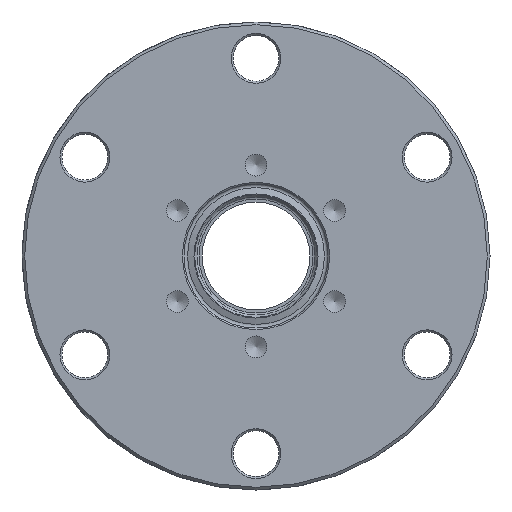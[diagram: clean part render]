
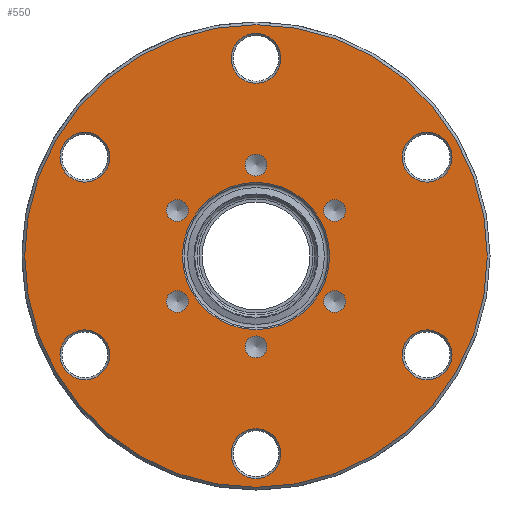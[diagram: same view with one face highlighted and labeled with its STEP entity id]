
A CAD part, left-side view. The second image highlights one B-rep face of the part: STEP entity #550.
In plain terms, the highlighted planar face has unit normal (-1, 0, 0).
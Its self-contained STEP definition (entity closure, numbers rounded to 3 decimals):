
#387=CARTESIAN_POINT('',(-13.,10.925,0.));
#388=VERTEX_POINT('',#387);
#389=CARTESIAN_POINT('',(-13.,0.,0.0));
#390=DIRECTION('',(-1.0,0.0,0.0));
#391=DIRECTION('',(0.0,-1.0,0.0));
#392=AXIS2_PLACEMENT_3D('',#389,#390,#391);
#393=CIRCLE('',#392,10.925);
#394=EDGE_CURVE('',#388,#388,#393,.T.);
#399=CARTESIAN_POINT('',(-13.,17.375,0.0));
#400=DIRECTION('',(-1.0,0.0,0.0));
#401=DIRECTION('',(0.0,0.0,1.0));
#402=AXIS2_PLACEMENT_3D('',#399,#400,#401);
#403=PLANE('',#402);
#404=CARTESIAN_POINT('',(-13.,34.35,0.));
#405=VERTEX_POINT('',#404);
#406=CARTESIAN_POINT('',(-13.,0.,0.0));
#407=DIRECTION('',(1.0,0.0,0.0));
#408=DIRECTION('',(0.0,-1.0,0.0));
#409=AXIS2_PLACEMENT_3D('',#406,#407,#408);
#410=CIRCLE('',#409,34.35);
#411=EDGE_CURVE('',#405,#405,#410,.T.);
#412=ORIENTED_EDGE('',*,*,#411,.F.);
#413=EDGE_LOOP('',(#412));
#414=FACE_OUTER_BOUND('',#413,.T.);
#415=CARTESIAN_POINT('',(-13.,13.095,-5.94));
#416=VERTEX_POINT('',#415);
#417=CARTESIAN_POINT('',(-13.,11.691,-6.75));
#418=DIRECTION('',(1.,0.0,0.0));
#419=DIRECTION('',(0.0,0.866,0.5));
#420=AXIS2_PLACEMENT_3D('',#417,#418,#419);
#421=CIRCLE('',#420,1.621);
#422=EDGE_CURVE('',#416,#416,#421,.T.);
#423=ORIENTED_EDGE('',*,*,#422,.T.);
#424=EDGE_LOOP('',(#423));
#425=FACE_BOUND('',#424,.T.);
#426=CARTESIAN_POINT('',(-13.,1.404,-14.31));
#427=VERTEX_POINT('',#426);
#428=CARTESIAN_POINT('',(-13.0,0.,-13.5));
#429=DIRECTION('',(1.0,0.0,0.0));
#430=DIRECTION('',(0.0,0.866,-0.5));
#431=AXIS2_PLACEMENT_3D('',#428,#429,#430);
#432=CIRCLE('',#431,1.621);
#433=EDGE_CURVE('',#427,#427,#432,.T.);
#434=ORIENTED_EDGE('',*,*,#433,.T.);
#435=EDGE_LOOP('',(#434));
#436=FACE_BOUND('',#435,.T.);
#437=CARTESIAN_POINT('',(-13.,-11.691,-8.371));
#438=VERTEX_POINT('',#437);
#439=CARTESIAN_POINT('',(-13.,-11.691,-6.75));
#440=DIRECTION('',(1.0,0.0,0.0));
#441=DIRECTION('',(0.0,0.0,-1.0));
#442=AXIS2_PLACEMENT_3D('',#439,#440,#441);
#443=CIRCLE('',#442,1.621);
#444=EDGE_CURVE('',#438,#438,#443,.T.);
#445=ORIENTED_EDGE('',*,*,#444,.T.);
#446=EDGE_LOOP('',(#445));
#447=FACE_BOUND('',#446,.T.);
#448=CARTESIAN_POINT('',(-13.,-13.095,5.94));
#449=VERTEX_POINT('',#448);
#450=CARTESIAN_POINT('',(-13.0,-11.691,6.75));
#451=DIRECTION('',(1.0,0.0,0.0));
#452=DIRECTION('',(0.0,-0.866,-0.5));
#453=AXIS2_PLACEMENT_3D('',#450,#451,#452);
#454=CIRCLE('',#453,1.621);
#455=EDGE_CURVE('',#449,#449,#454,.T.);
#456=ORIENTED_EDGE('',*,*,#455,.T.);
#457=EDGE_LOOP('',(#456));
#458=FACE_BOUND('',#457,.T.);
#459=CARTESIAN_POINT('',(-13.,-1.404,14.31));
#460=VERTEX_POINT('',#459);
#461=CARTESIAN_POINT('',(-13.,0.,13.5));
#462=DIRECTION('',(1.,0.0,0.0));
#463=DIRECTION('',(0.0,-0.866,0.5));
#464=AXIS2_PLACEMENT_3D('',#461,#462,#463);
#465=CIRCLE('',#464,1.621);
#466=EDGE_CURVE('',#460,#460,#465,.T.);
#467=ORIENTED_EDGE('',*,*,#466,.T.);
#468=EDGE_LOOP('',(#467));
#469=FACE_BOUND('',#468,.T.);
#470=CARTESIAN_POINT('',(-13.,11.691,8.371));
#471=VERTEX_POINT('',#470);
#472=CARTESIAN_POINT('',(-13.,11.691,6.75));
#473=DIRECTION('',(1.0,0.0,0.0));
#474=DIRECTION('',(0.0,0.0,1.0));
#475=AXIS2_PLACEMENT_3D('',#472,#473,#474);
#476=CIRCLE('',#475,1.621);
#477=EDGE_CURVE('',#471,#471,#476,.T.);
#478=ORIENTED_EDGE('',*,*,#477,.T.);
#479=EDGE_LOOP('',(#478));
#480=FACE_BOUND('',#479,.T.);
#481=CARTESIAN_POINT('',(-13.,-22.214,-16.525));
#482=VERTEX_POINT('',#481);
#483=CARTESIAN_POINT('',(-13.,-25.418,-14.675));
#484=DIRECTION('',(-1.0,0.,0.));
#485=DIRECTION('',(0.,-0.866,0.5));
#486=AXIS2_PLACEMENT_3D('',#483,#484,#485);
#487=CIRCLE('',#486,3.7);
#488=EDGE_CURVE('',#482,#482,#487,.T.);
#489=ORIENTED_EDGE('',*,*,#488,.F.);
#490=EDGE_LOOP('',(#489));
#491=FACE_BOUND('',#490,.T.);
#492=CARTESIAN_POINT('',(-13.,-3.204,27.5));
#493=VERTEX_POINT('',#492);
#494=CARTESIAN_POINT('',(-13.,0.,29.35));
#495=DIRECTION('',(-1.0,0.,0.));
#496=DIRECTION('',(0.,0.866,0.5));
#497=AXIS2_PLACEMENT_3D('',#494,#495,#496);
#498=CIRCLE('',#497,3.7);
#499=EDGE_CURVE('',#493,#493,#498,.T.);
#500=ORIENTED_EDGE('',*,*,#499,.F.);
#501=EDGE_LOOP('',(#500));
#502=FACE_BOUND('',#501,.T.);
#503=CARTESIAN_POINT('',(-13.,25.418,-10.975));
#504=VERTEX_POINT('',#503);
#505=CARTESIAN_POINT('',(-13.,25.418,-14.675));
#506=DIRECTION('',(-1.0,0.0,0.0));
#507=DIRECTION('',(0.0,0.0,-1.0));
#508=AXIS2_PLACEMENT_3D('',#505,#506,#507);
#509=CIRCLE('',#508,3.7);
#510=EDGE_CURVE('',#504,#504,#509,.T.);
#511=ORIENTED_EDGE('',*,*,#510,.F.);
#512=EDGE_LOOP('',(#511));
#513=FACE_BOUND('',#512,.T.);
#514=CARTESIAN_POINT('',(-13.,22.214,16.525));
#515=VERTEX_POINT('',#514);
#516=CARTESIAN_POINT('',(-13.,25.418,14.675));
#517=DIRECTION('',(-1.,0.,0.));
#518=DIRECTION('',(0.,0.866,-0.5));
#519=AXIS2_PLACEMENT_3D('',#516,#517,#518);
#520=CIRCLE('',#519,3.7);
#521=EDGE_CURVE('',#515,#515,#520,.T.);
#522=ORIENTED_EDGE('',*,*,#521,.F.);
#523=EDGE_LOOP('',(#522));
#524=FACE_BOUND('',#523,.T.);
#525=CARTESIAN_POINT('',(-13.,-25.418,10.975));
#526=VERTEX_POINT('',#525);
#527=CARTESIAN_POINT('',(-13.,-25.418,14.675));
#528=DIRECTION('',(-1.0,0.0,0.0));
#529=DIRECTION('',(0.0,0.0,1.0));
#530=AXIS2_PLACEMENT_3D('',#527,#528,#529);
#531=CIRCLE('',#530,3.7);
#532=EDGE_CURVE('',#526,#526,#531,.T.);
#533=ORIENTED_EDGE('',*,*,#532,.F.);
#534=EDGE_LOOP('',(#533));
#535=FACE_BOUND('',#534,.T.);
#536=CARTESIAN_POINT('',(-13.,3.204,-27.5));
#537=VERTEX_POINT('',#536);
#538=CARTESIAN_POINT('',(-13.,0.,-29.35));
#539=DIRECTION('',(-1.0,0.,0.));
#540=DIRECTION('',(0.,-0.866,-0.5));
#541=AXIS2_PLACEMENT_3D('',#538,#539,#540);
#542=CIRCLE('',#541,3.7);
#543=EDGE_CURVE('',#537,#537,#542,.T.);
#544=ORIENTED_EDGE('',*,*,#543,.F.);
#545=EDGE_LOOP('',(#544));
#546=FACE_BOUND('',#545,.T.);
#547=ORIENTED_EDGE('',*,*,#394,.F.);
#548=EDGE_LOOP('',(#547));
#549=FACE_BOUND('',#548,.T.);
#550=ADVANCED_FACE('',(#414,#425,#436,#447,#458,#469,#480,#491,#502,#513,#524,#535,#546,#549),#403,.T.);
